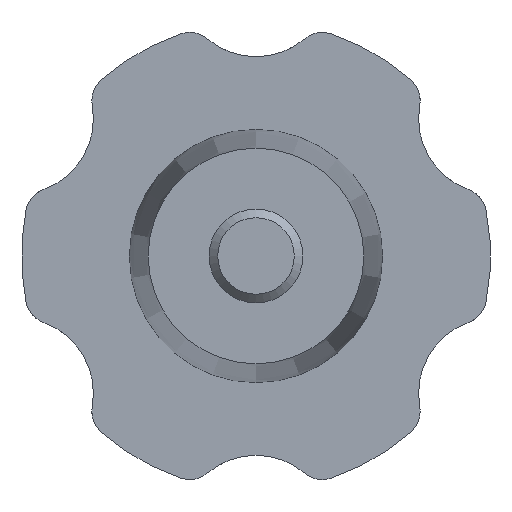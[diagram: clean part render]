
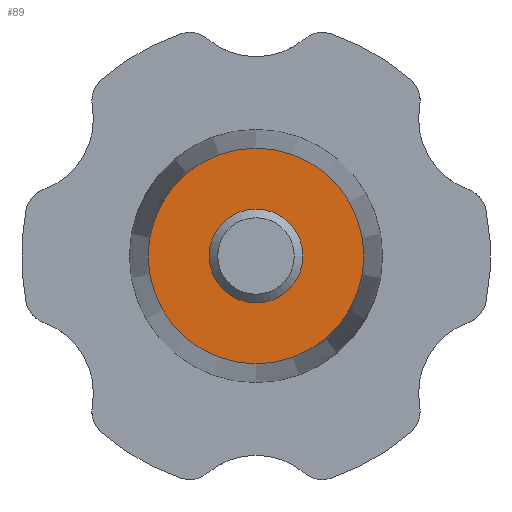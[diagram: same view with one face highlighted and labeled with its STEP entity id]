
A CAD part, front view. The second image highlights one B-rep face of the part: STEP entity #89.
In plain terms, the highlighted planar face has unit normal (0, -1, 0).
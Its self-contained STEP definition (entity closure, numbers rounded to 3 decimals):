
#89 = ADVANCED_FACE( '', ( #144, #145 ), #146, .F. );
#144 = FACE_BOUND( '', #254, .T. );
#145 = FACE_OUTER_BOUND( '', #255, .T. );
#146 = PLANE( '', #256 );
#254 = EDGE_LOOP( '', ( #419 ) );
#255 = EDGE_LOOP( '', ( #420 ) );
#256 = AXIS2_PLACEMENT_3D( '', #421, #422, #423 );
#419 = ORIENTED_EDGE( '', *, *, #620, .F. );
#420 = ORIENTED_EDGE( '', *, *, #621, .T. );
#421 = CARTESIAN_POINT( '', ( 11.5, 0., 0. ) );
#422 = DIRECTION( '', ( 0., 1., 0. ) );
#423 = DIRECTION( '', ( 0., 0., 1. ) );
#620 = EDGE_CURVE( '', #754, #754, #755, .T. );
#621 = EDGE_CURVE( '', #756, #756, #757, .T. );
#754 = VERTEX_POINT( '', #1359 );
#755 = CIRCLE( '', #1360, 5. );
#756 = VERTEX_POINT( '', #1361 );
#757 = CIRCLE( '', #1362, 11.5 );
#1359 = CARTESIAN_POINT( '', ( 0., 0., -5. ) );
#1360 = AXIS2_PLACEMENT_3D( '', #1534, #1535, #1536 );
#1361 = CARTESIAN_POINT( '', ( 0., 0., -11.5 ) );
#1362 = AXIS2_PLACEMENT_3D( '', #1537, #1538, #1539 );
#1534 = CARTESIAN_POINT( '', ( 0., 0., 0. ) );
#1535 = DIRECTION( '', ( 0., -1., 0. ) );
#1536 = DIRECTION( '', ( 0., 0., -1. ) );
#1537 = CARTESIAN_POINT( '', ( 0., 0., 0. ) );
#1538 = DIRECTION( '', ( 0., -1., 0. ) );
#1539 = DIRECTION( '', ( 0., 0., -1. ) );
